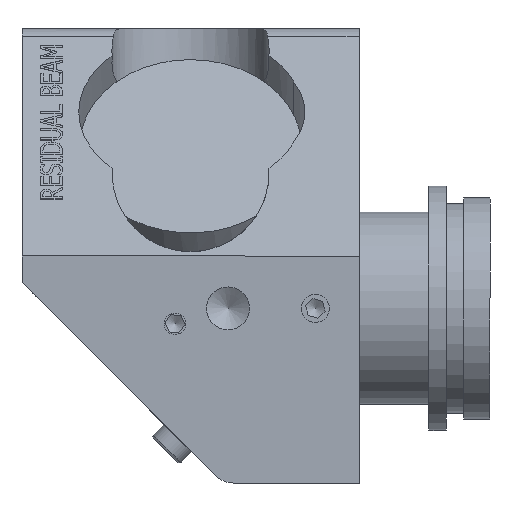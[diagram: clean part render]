
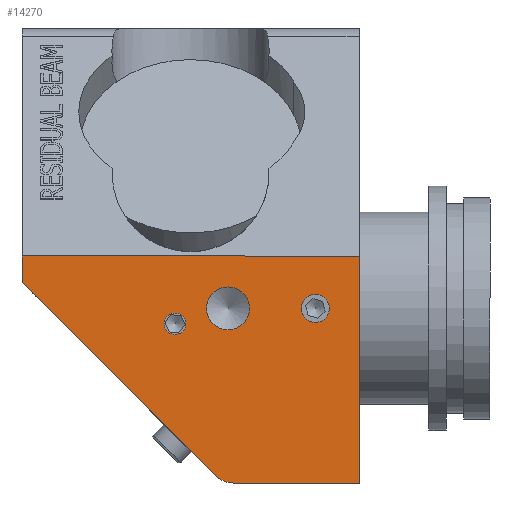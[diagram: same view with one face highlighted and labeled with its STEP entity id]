
A CAD part, left-side view. The second image highlights one B-rep face of the part: STEP entity #14270.
In plain terms, the highlighted planar face has unit normal (-1, 0, 0).
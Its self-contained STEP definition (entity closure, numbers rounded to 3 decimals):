
#720=FACE_BOUND($,#2391,.T.);
#721=FACE_BOUND($,#2392,.T.);
#722=FACE_BOUND($,#2393,.T.);
#723=FACE_BOUND($,#2394,.T.);
#2391=EDGE_LOOP($,(#12714));
#2392=EDGE_LOOP($,(#12715));
#2393=EDGE_LOOP($,(#12716,#12717,#12718,#12719,#12720,#12721));
#2394=EDGE_LOOP($,(#12722));
#2635=CIRCLE($,#15046,1.6);
#2652=CIRCLE($,#15082,1.23);
#2656=CIRCLE($,#15089,3.);
#2658=CIRCLE($,#15092,2.459);
#3586=LINE($,#22136,#5076);
#3953=LINE($,#23811,#5443);
#4134=LINE($,#24624,#5624);
#4137=LINE($,#24633,#5627);
#4138=LINE($,#24634,#5628);
#5076=VECTOR($,#17076,38.6);
#5443=VECTOR($,#17695,26.);
#5624=VECTOR($,#18124,31.284);
#5627=VECTOR($,#18135,14.357);
#5628=VECTOR($,#18136,3.);
#6477=VERTEX_POINT($,#22133);
#6478=VERTEX_POINT($,#22135);
#6786=VERTEX_POINT($,#23810);
#6939=VERTEX_POINT($,#24537);
#6957=VERTEX_POINT($,#24602);
#6965=VERTEX_POINT($,#24621);
#6966=VERTEX_POINT($,#24623);
#6967=VERTEX_POINT($,#24627);
#6969=VERTEX_POINT($,#24635);
#8196=EDGE_CURVE($,#6478,#6477,#3586,.T.);
#8658=EDGE_CURVE($,#6478,#6786,#3953,.T.);
#8879=EDGE_CURVE($,#6939,#6939,#2635,.T.);
#8907=EDGE_CURVE($,#6957,#6957,#2652,.T.);
#8917=EDGE_CURVE($,#6965,#6966,#4134,.T.);
#8919=EDGE_CURVE($,#6967,#6965,#2656,.T.);
#8922=EDGE_CURVE($,#6786,#6967,#4137,.T.);
#8923=EDGE_CURVE($,#6966,#6477,#4138,.T.);
#8924=EDGE_CURVE($,#6969,#6969,#2658,.T.);
#12714=ORIENTED_EDGE($,*,*,#8879,.T.);
#12715=ORIENTED_EDGE($,*,*,#8907,.T.);
#12716=ORIENTED_EDGE($,*,*,#8919,.F.);
#12717=ORIENTED_EDGE($,*,*,#8922,.F.);
#12718=ORIENTED_EDGE($,*,*,#8658,.F.);
#12719=ORIENTED_EDGE($,*,*,#8196,.T.);
#12720=ORIENTED_EDGE($,*,*,#8923,.F.);
#12721=ORIENTED_EDGE($,*,*,#8917,.F.);
#12722=ORIENTED_EDGE($,*,*,#8924,.T.);
#13513=PLANE($,#15091);
#14270=ADVANCED_FACE($,(#720,#721,#722,#723),#13513,.F.);
#15046=AXIS2_PLACEMENT_3D($,#24538,#18023,#18024);
#15082=AXIS2_PLACEMENT_3D($,#24603,#18106,#18107);
#15089=AXIS2_PLACEMENT_3D($,#24628,#18128,#18129);
#15091=AXIS2_PLACEMENT_3D($,#24632,#18133,#18134);
#15092=AXIS2_PLACEMENT_3D($,#24636,#18137,#18138);
#17076=DIRECTION($,(0.,1.,0.));
#17695=DIRECTION($,(0.,0.,-1.));
#18023=DIRECTION('center_axis',(1.,0.,0.));
#18024=DIRECTION('ref_axis',(0.,-1.,0.));
#18106=DIRECTION('center_axis',(1.,0.,0.));
#18107=DIRECTION('ref_axis',(0.,-1.,0.));
#18124=DIRECTION($,(0.,0.707,0.707));
#18128=DIRECTION('center_axis',(1.,0.,0.));
#18129=DIRECTION('ref_axis',(0.,0.383,-0.924));
#18133=DIRECTION('center_axis',(1.,0.,0.));
#18134=DIRECTION('ref_axis',(0.,1.,0.));
#18135=DIRECTION($,(0.,1.,0.));
#18136=DIRECTION($,(0.,0.,1.));
#18137=DIRECTION('center_axis',(1.,0.,0.));
#18138=DIRECTION('ref_axis',(0.,-1.,0.));
#22133=CARTESIAN_POINT('',(-23.5,38.6,26.));
#22135=CARTESIAN_POINT('',(-23.5,0.,26.));
#22136=CARTESIAN_POINT($,(-23.5,27.848,26.));
#23810=CARTESIAN_POINT('',(-23.5,0.,0.));
#23811=CARTESIAN_POINT($,(-23.5,0.,52.));
#24537=CARTESIAN_POINT('',(-23.5,3.4,20.));
#24538=CARTESIAN_POINT('Origin',(-23.5,5.,20.));
#24602=CARTESIAN_POINT('',(-23.5,19.838,18.232));
#24603=CARTESIAN_POINT('Origin',(-23.5,21.068,18.232));
#24621=CARTESIAN_POINT('',(-23.5,16.479,0.879));
#24623=CARTESIAN_POINT('',(-23.5,38.6,23.));
#24624=CARTESIAN_POINT($,(-23.5,15.6,0.));
#24627=CARTESIAN_POINT('',(-23.5,14.357,0.));
#24628=CARTESIAN_POINT('Origin',(-23.5,14.357,3.));
#24632=CARTESIAN_POINT('Origin',(-23.5,17.096,28.742));
#24633=CARTESIAN_POINT($,(-23.5,0.,0.));
#24634=CARTESIAN_POINT($,(-23.5,38.6,23.));
#24635=CARTESIAN_POINT('',(-23.5,12.542,20.));
#24636=CARTESIAN_POINT('Origin',(-23.5,15.,20.));
